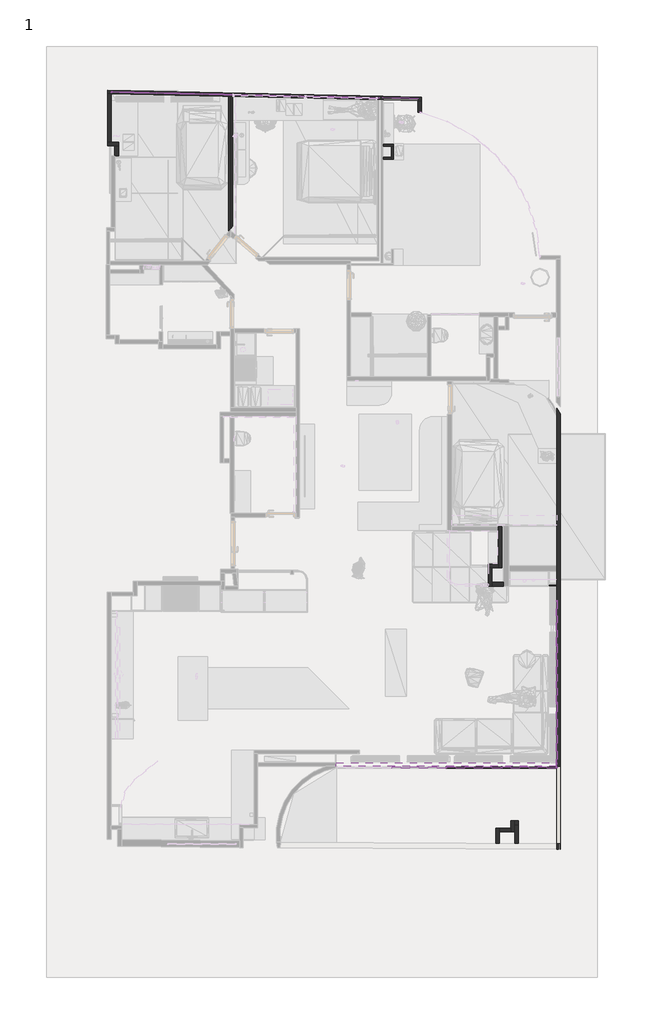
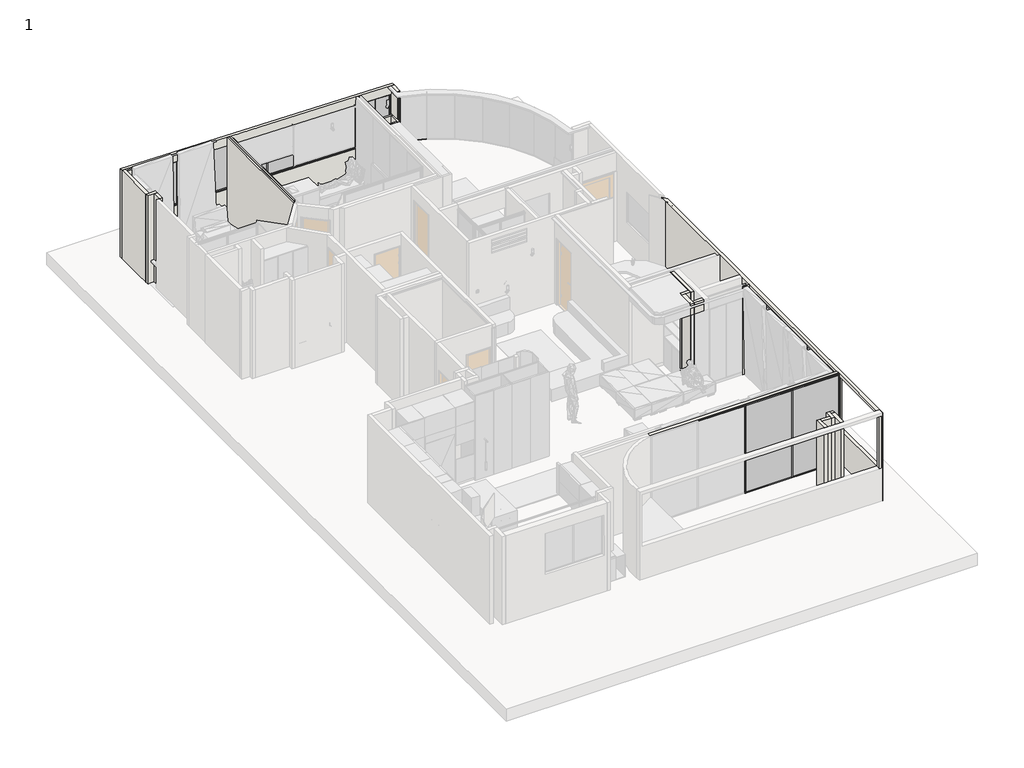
# One storey, part 6 of 11: 40 members, 22 walls, 11 plates.
"""IFC4 building model written with IfcOpenShell, lengths in millimetres."""

from ifc_helpers import new_model, si_unit, frame, origin, origin_with_axes, place, context, project, spatial, polyline, circle_curve, outline, extrude, faceted_brep, transform, mapped, element, save
from ifc_brep_helpers import plane_surface, cylinder_surface, advanced_brep
from components import rectangular_mullion_30mm_square_bb45b953, rectangular_mullion_30mm_square_22a021ac, rectangular_mullion_30mm_square_f3bc5244, rectangular_mullion_30mm_square_e31bbad3, rectangular_mullion_30mm_square_cb0955aa, rectangular_mullion_30mm_square_fa3afb79, rectangular_mullion_30mm_square_635e6767, rectangular_mullion_30mm_square_427ff21f, rectangular_mullion_30mm_square_7dce82d5, rectangular_mullion_30mm_square_c12cb2e3, rectangular_mullion_30mm_square_d7211219, rectangular_mullion_30mm_square_151e444d, rectangular_mullion_30mm_square_53f41a94, rectangular_mullion_30mm_square_fba6741d, rectangular_mullion_30mm_square_529eeb8e, rectangular_mullion_rectangular_mullion_fg_bottom_20mm_79b829b6, rectangular_mullion_rectangular_mullion_fg_bottom_20mm_f2c6a49c, rectangular_mullion_rectangular_mullion_fg_left_20mm_23cf265d, rectangular_mullion_rectangular_mullion_fg_left_20mm_e4ea84c6, rectangular_mullion_rectangular_mullion_fg_right_20mm_0f13af1a, rectangular_mullion_rectangular_mullion_fg_top_20mm_4843f478, rectangular_mullion_rectangular_mullion_fg_vertical_20_6439c7f2, plate_a6297edd, plate_065c79b7

model = new_model("IFC4")

# Units and contexts
model_context = context("Model", 3, world=origin())
ifc_project = project(units=[si_unit("LENGTHUNIT", "METRE", prefix="MILLI")], contexts=[model_context])

# Site, building, storey
site = spatial("IfcSite", under=ifc_project)
building = spatial("IfcBuilding", under=site)
storey = spatial("IfcBuildingStorey", under=building, Name="1", Elevation=0.0)

# Members
placement = place(None, origin())
rectangular_mullion_30mm_square_shape = rectangular_mullion_30mm_square_bb45b953(model_context)
element("IfcMember", 1, ObjectType="Rectangular Mullion : 30mm Square", at=placement, inside=storey, context=model_context, shape_type="MappedRepresentation", body=[
    mapped(rectangular_mullion_30mm_square_shape, transform((99604.3502509, 7842.3363239, 0.0), x_axis=(1.0, 0.0, 0.0), y_axis=(0.0, -1.0, 0.0), z_axis=(0.0, 0.0, -1.0))),
])
rectangular_mullion_30mm_square_2_shape = rectangular_mullion_30mm_square_22a021ac(model_context)
element("IfcMember", 2, ObjectType="Rectangular Mullion : 30mm Square", at=placement, inside=storey, context=model_context, shape_type="MappedRepresentation", body=[
    mapped(rectangular_mullion_30mm_square_2_shape, transform((94819.4045121, 25823.5186766, 1210.0), x_axis=(0.9997504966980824, -0.022337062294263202, 0.0), y_axis=(-0.022337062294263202, -0.9997504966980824, 0.0), z_axis=(0.0, 0.0, -1.0))),
])
element("IfcMember", 3, ObjectType="Rectangular Mullion : 30mm Square", at=placement, inside=storey, context=model_context, shape_type="MappedRepresentation", body=[
    mapped(rectangular_mullion_30mm_square_2_shape, transform((87623.931136, 25984.2845252, 2650.0), x_axis=(-0.9997504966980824, 0.022337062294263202, 0.0), y_axis=(-0.022337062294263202, -0.9997504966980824, 0.0), z_axis=(0.0, 0.0, 1.0))),
])
rectangular_mullion_30mm_square_3_shape = rectangular_mullion_30mm_square_f3bc5244(model_context)
element("IfcMember", 4, ObjectType="Rectangular Mullion : 30mm Square", at=placement, inside=storey, context=model_context, shape_type="MappedRepresentation", body=[
    mapped(rectangular_mullion_30mm_square_3_shape, transform((92052.7699373, 25885.3325882, 1210.0), x_axis=(0.9997504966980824, -0.022337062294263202, 0.0), y_axis=(-0.022337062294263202, -0.9997504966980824, 0.0), z_axis=(0.0, 0.0, -1.0))),
])
element("IfcMember", 5, ObjectType="Rectangular Mullion : 30mm Square", at=placement, inside=storey, context=model_context, shape_type="MappedRepresentation", body=[
    mapped(rectangular_mullion_30mm_square_3_shape, transform((93417.4014157, 25854.8431226, 1210.0), x_axis=(0.9997504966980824, -0.022337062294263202, 0.0), y_axis=(-0.022337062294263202, -0.9997504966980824, 0.0), z_axis=(0.0, 0.0, -1.0))),
])
element("IfcMember", 6, ObjectType="Rectangular Mullion : 30mm Square", at=placement, inside=storey, context=model_context, shape_type="MappedRepresentation", body=[
    mapped(rectangular_mullion_30mm_square_3_shape, transform((89263.5219506, 25947.6517431, 1210.0), x_axis=(0.9997504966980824, -0.022337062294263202, 0.0), y_axis=(-0.022337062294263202, -0.9997504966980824, 0.0), z_axis=(0.0, 0.0, -1.0))),
])
rectangular_mullion_30mm_square_4_shape = rectangular_mullion_30mm_square_e31bbad3(model_context)
element("IfcMember", 7, ObjectType="Rectangular Mullion : 30mm Square", at=placement, inside=storey, context=model_context, shape_type="MappedRepresentation", body=[
    mapped(rectangular_mullion_30mm_square_4_shape, transform((92067.7661947, 25884.9975323, 1210.0), x_axis=(0.0, 0.0, -1.0), y_axis=(-0.02233706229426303, -0.9997504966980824, 0.0), z_axis=(-0.9997504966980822, 0.022337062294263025, 0.0))),
])
element("IfcMember", 8, ObjectType="Rectangular Mullion : 30mm Square", at=placement, inside=storey, context=model_context, shape_type="MappedRepresentation", body=[
    mapped(rectangular_mullion_30mm_square_4_shape, transform((93402.4051583, 25855.1781786, 2650.0), x_axis=(0.0, 0.0, 1.0), y_axis=(-0.02233706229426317, -0.9997504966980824, 0.0), z_axis=(0.9997504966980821, -0.022337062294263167, 0.0))),
])
rectangular_mullion_30mm_square_5_shape = rectangular_mullion_30mm_square_cb0955aa(model_context)
element("IfcMember", 9, ObjectType="Rectangular Mullion : 30mm Square", at=placement, inside=storey, context=model_context, shape_type="MappedRepresentation", body=[
    mapped(rectangular_mullion_30mm_square_5_shape, transform((87653.9236509, 25983.6144133, 1210.0), x_axis=(0.0, 0.0, -1.0), y_axis=(-0.0223370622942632, -0.9997504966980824, 0.0), z_axis=(-0.9997504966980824, 0.0223370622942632, 0.0))),
])
rectangular_mullion_30mm_square_6_shape = rectangular_mullion_30mm_square_fa3afb79(model_context)
element("IfcMember", 10, ObjectType="Rectangular Mullion : 30mm Square", at=placement, inside=storey, context=model_context, shape_type="MappedRepresentation", body=[
    mapped(rectangular_mullion_30mm_square_6_shape, transform((92037.7736798, 25885.6676441, 2650.0), x_axis=(0.0, 0.0, 1.0), y_axis=(-0.02233706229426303, -0.9997504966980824, 0.0), z_axis=(0.9997504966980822, -0.022337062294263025, 0.0))),
])
element("IfcMember", 11, ObjectType="Rectangular Mullion : 30mm Square", at=placement, inside=storey, context=model_context, shape_type="MappedRepresentation", body=[
    mapped(rectangular_mullion_30mm_square_5_shape, transform((89248.5256932, 25947.986799, 2650.0), x_axis=(0.0, 0.0, 1.0), y_axis=(-0.022337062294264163, -0.9997504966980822, 0.0), z_axis=(0.9997504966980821, -0.02233706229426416, 0.0))),
])
element("IfcMember", 12, ObjectType="Rectangular Mullion : 30mm Square", at=placement, inside=storey, context=model_context, shape_type="MappedRepresentation", body=[
    mapped(rectangular_mullion_30mm_square_6_shape, transform((89278.5182081, 25947.3166871, 1210.0), x_axis=(0.0, 0.0, -1.0), y_axis=(-0.022337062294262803, -0.9997504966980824, 0.0), z_axis=(-0.9997504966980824, 0.022337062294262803, 0.0))),
])
rectangular_mullion_30mm_square_7_shape = rectangular_mullion_30mm_square_635e6767(model_context)
element("IfcMember", 13, ObjectType="Rectangular Mullion : 30mm Square", at=placement, inside=storey, context=model_context, shape_type="MappedRepresentation", body=[
    mapped(rectangular_mullion_30mm_square_7_shape, transform((94789.4119972, 25824.1887884, 2650.0), x_axis=(0.0, 0.0, 1.0), y_axis=(-0.022337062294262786, -0.9997504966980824, 0.0), z_axis=(0.9997504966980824, -0.022337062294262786, 0.0))),
])
element("IfcMember", 14, ObjectType="Rectangular Mullion : 30mm Square", at=placement, inside=storey, context=model_context, shape_type="MappedRepresentation", body=[
    mapped(rectangular_mullion_30mm_square_7_shape, transform((93432.3976732, 25854.5080667, 1210.0), x_axis=(0.0, 0.0, -1.0), y_axis=(-0.022337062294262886, -0.9997504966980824, 0.0), z_axis=(-0.9997504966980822, 0.022337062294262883, 0.0))),
])
rectangular_mullion_30mm_square_8_shape = rectangular_mullion_30mm_square_427ff21f(model_context)
element("IfcMember", 15, ObjectType="Rectangular Mullion : 30mm Square", at=placement, inside=storey, context=model_context, shape_type="MappedRepresentation", body=[
    mapped(rectangular_mullion_30mm_square_8_shape, transform((99604.3502509, 7824.8363239, 1334.4706456), x_axis=(0.0, -1.0, 0.0), y_axis=(-1.0, 0.0, 0.0), z_axis=(0.0, 0.0, -1.0))),
])
element("IfcMember", 16, ObjectType="Rectangular Mullion : 30mm Square", at=placement, inside=storey, context=model_context, shape_type="MappedRepresentation", body=[
    mapped(rectangular_mullion_30mm_square_8_shape, transform((99604.3502509, 12334.5259381, 2827.5479286), x_axis=(0.0, 1.0, 0.0), y_axis=(-1.0, 0.0, 0.0), z_axis=(0.0, 0.0, 1.0))),
])
rectangular_mullion_30mm_square_9_shape = rectangular_mullion_30mm_square_7dce82d5(model_context)
element("IfcMember", 17, ObjectType="Rectangular Mullion : 30mm Square", at=placement, inside=storey, context=model_context, shape_type="MappedRepresentation", body=[
    mapped(rectangular_mullion_30mm_square_9_shape, transform((99604.3502509, 12304.5259381, 1334.4706456), x_axis=(0.0, 0.0, -1.0), y_axis=(-1.0, 0.0, 0.0), z_axis=(0.0, 1.0, 0.0))),
])
element("IfcMember", 18, ObjectType="Rectangular Mullion : 30mm Square", at=placement, inside=storey, context=model_context, shape_type="MappedRepresentation", body=[
    mapped(rectangular_mullion_30mm_square_9_shape, transform((99604.3502509, 11149.5259381, 2827.5479286), x_axis=(0.0, 0.0, 1.0), y_axis=(-1.0, 0.0, 0.0), z_axis=(0.0, -1.0, 0.0))),
])
rectangular_mullion_30mm_square_10_shape = rectangular_mullion_30mm_square_c12cb2e3(model_context)
element("IfcMember", 19, ObjectType="Rectangular Mullion : 30mm Square", at=placement, inside=storey, context=model_context, shape_type="MappedRepresentation", body=[
    mapped(rectangular_mullion_30mm_square_10_shape, transform((99604.3502509, 11134.5259381, 1334.4706456), x_axis=(0.0, -1.0, 0.0), y_axis=(-1.0, 0.0, 0.0), z_axis=(0.0, 0.0, -1.0))),
])
element("IfcMember", 20, ObjectType="Rectangular Mullion : 30mm Square", at=placement, inside=storey, context=model_context, shape_type="MappedRepresentation", body=[
    mapped(rectangular_mullion_30mm_square_10_shape, transform((99604.3502509, 9574.5259381, 1334.4706456), x_axis=(0.0, -1.0, 0.0), y_axis=(-1.0, 0.0, 0.0), z_axis=(0.0, 0.0, -1.0))),
])
rectangular_mullion_30mm_square_11_shape = rectangular_mullion_30mm_square_d7211219(model_context)
element("IfcMember", 21, ObjectType="Rectangular Mullion : 30mm Square", at=placement, inside=storey, context=model_context, shape_type="MappedRepresentation", body=[
    mapped(rectangular_mullion_30mm_square_11_shape, transform((99604.3502509, 11119.5259381, 1334.4706456), x_axis=(0.0, 0.0, -1.0), y_axis=(-1.0, 0.0, 0.0), z_axis=(0.0, 1.0, 0.0))),
])
element("IfcMember", 22, ObjectType="Rectangular Mullion : 30mm Square", at=placement, inside=storey, context=model_context, shape_type="MappedRepresentation", body=[
    mapped(rectangular_mullion_30mm_square_11_shape, transform((99604.3502509, 9589.5259381, 2827.5479286), x_axis=(0.0, 0.0, 1.0), y_axis=(-1.0, 0.0, 0.0), z_axis=(0.0, -1.0, 0.0))),
])
rectangular_mullion_30mm_square_12_shape = rectangular_mullion_30mm_square_151e444d(model_context)
element("IfcMember", 23, ObjectType="Rectangular Mullion : 30mm Square", at=placement, inside=storey, context=model_context, shape_type="MappedRepresentation", body=[
    mapped(rectangular_mullion_30mm_square_12_shape, transform((96640.6682783, 7842.3363239, 0.0), x_axis=(1.0, 0.0, 0.0), y_axis=(0.0, -1.0, 0.0), z_axis=(0.0, 0.0, -1.0))),
])
element("IfcMember", 24, ObjectType="Rectangular Mullion : 30mm Square", at=placement, inside=storey, context=model_context, shape_type="MappedRepresentation", body=[
    mapped(rectangular_mullion_30mm_square_12_shape, transform((98122.5092646, 7842.3363239, 0.0), x_axis=(1.0, 0.0, 0.0), y_axis=(0.0, -1.0, 0.0), z_axis=(0.0, 0.0, -1.0))),
])
rectangular_mullion_30mm_square_13_shape = rectangular_mullion_30mm_square_53f41a94(model_context)
element("IfcMember", 25, ObjectType="Rectangular Mullion : 30mm Square", at=placement, inside=storey, context=model_context, shape_type="MappedRepresentation", body=[
    mapped(rectangular_mullion_30mm_square_13_shape, transform((99574.3502509, 7842.3363239, 2930.0), x_axis=(0.0, 0.0, 1.0), y_axis=(0.0, -1.0, 0.0), z_axis=(1.0, 0.0, 0.0))),
])
rectangular_mullion_30mm_square_14_shape = rectangular_mullion_30mm_square_fba6741d(model_context)
element("IfcMember", 26, ObjectType="Rectangular Mullion : 30mm Square", at=placement, inside=storey, context=model_context, shape_type="MappedRepresentation", body=[
    mapped(rectangular_mullion_30mm_square_14_shape, transform((96655.6682783, 7842.3363239, 0.0), x_axis=(0.0, 0.0, -1.0), y_axis=(0.0, -1.0, 0.0), z_axis=(-1.0, 0.0, 0.0))),
])
element("IfcMember", 27, ObjectType="Rectangular Mullion : 30mm Square", at=placement, inside=storey, context=model_context, shape_type="MappedRepresentation", body=[
    mapped(rectangular_mullion_30mm_square_14_shape, transform((96625.6682783, 7842.3363239, 2930.0), x_axis=(0.0, 0.0, 1.0), y_axis=(0.0, -1.0, 0.0), z_axis=(1.0, 0.0, 0.0))),
])
element("IfcMember", 28, ObjectType="Rectangular Mullion : 30mm Square", at=placement, inside=storey, context=model_context, shape_type="MappedRepresentation", body=[
    mapped(rectangular_mullion_30mm_square_14_shape, transform((98107.5092646, 7842.3363239, 2930.0), x_axis=(0.0, 0.0, 1.0), y_axis=(0.0, -1.0, 0.0), z_axis=(1.0, 0.0, 0.0))),
])
element("IfcMember", 29, ObjectType="Rectangular Mullion : 30mm Square", at=placement, inside=storey, context=model_context, shape_type="MappedRepresentation", body=[
    mapped(rectangular_mullion_30mm_square_13_shape, transform((98137.5092646, 7842.3363239, 0.0), x_axis=(0.0, 0.0, -1.0), y_axis=(0.0, -1.0, 0.0), z_axis=(-1.0, 0.0, 0.0))),
])
rectangular_mullion_30mm_square_15_shape = rectangular_mullion_30mm_square_529eeb8e(model_context)
element("IfcMember", 30, ObjectType="Rectangular Mullion : 30mm Square", at=placement, inside=storey, context=model_context, shape_type="MappedRepresentation", body=[
    mapped(rectangular_mullion_30mm_square_15_shape, transform((99604.3502509, 7854.8363239, 2827.5479286), x_axis=(0.0, 0.0, 1.0), y_axis=(-1.0, 0.0, 0.0), z_axis=(0.0, -1.0, 0.0))),
])
element("IfcMember", 31, ObjectType="Rectangular Mullion : 30mm Square", at=placement, inside=storey, context=model_context, shape_type="MappedRepresentation", body=[
    mapped(rectangular_mullion_30mm_square_15_shape, transform((99604.3502509, 9559.5259381, 1334.4706456), x_axis=(0.0, 0.0, -1.0), y_axis=(-1.0, 0.0, 0.0), z_axis=(0.0, 1.0, 0.0))),
])
rectangular_mullion_rectangular_mullion_fg_bottom_20mm_shape = rectangular_mullion_rectangular_mullion_fg_bottom_20mm_79b829b6(model_context)
element("IfcMember", 32, ObjectType="Rectangular Mullion : Rectangular Mullion-FG Bottom 20mm", at=placement, inside=storey, context=model_context, shape_type="MappedRepresentation", body=[
    mapped(rectangular_mullion_rectangular_mullion_fg_bottom_20mm_shape, transform((95923.0231854, 25434.6898524, 1217.4752087), x_axis=(0.0, 0.0, -1.0), y_axis=(-0.3209924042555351, -0.9470817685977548, 0.0), z_axis=(-0.9470817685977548, 0.3209924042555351, 0.0))),
])
rectangular_mullion_rectangular_mullion_fg_bottom_20mm_2_shape = rectangular_mullion_rectangular_mullion_fg_bottom_20mm_f2c6a49c(model_context)
element("IfcMember", 33, ObjectType="Rectangular Mullion : Rectangular Mullion-FG Bottom 20mm", at=placement, inside=storey, context=model_context, shape_type="MappedRepresentation", body=[
    mapped(rectangular_mullion_rectangular_mullion_fg_bottom_20mm_2_shape, transform((94934.7838788, 25820.9407973, 1167.9966083), x_axis=(0.0, 0.0, -1.0), y_axis=(-0.022337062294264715, -0.9997504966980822, 0.0), z_axis=(-0.9997504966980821, 0.02233706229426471, 0.0))),
])
element("IfcMember", 34, ObjectType="Rectangular Mullion : Rectangular Mullion-FG Bottom 20mm", at=placement, inside=storey, context=model_context, shape_type="MappedRepresentation", body=[
    mapped(rectangular_mullion_rectangular_mullion_fg_bottom_20mm_2_shape, transform((95409.4619587, 25810.3352373, 1167.9966083), x_axis=(0.0, 0.0, -1.0), y_axis=(-0.022337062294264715, -0.9997504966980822, 0.0), z_axis=(-0.9997504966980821, 0.02233706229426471, 0.0))),
])
rectangular_mullion_rectangular_mullion_fg_left_20mm_shape = rectangular_mullion_rectangular_mullion_fg_left_20mm_23cf265d(model_context)
element("IfcMember", 35, ObjectType="Rectangular Mullion : Rectangular Mullion-FG Left 20mm", at=placement, inside=storey, context=model_context, shape_type="MappedRepresentation", body=[
    mapped(rectangular_mullion_rectangular_mullion_fg_left_20mm_shape, transform((95923.0231854, 25434.6898524, 2778.8206794), x_axis=(-0.9470817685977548, 0.32099240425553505, 0.0), y_axis=(-0.32099240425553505, -0.9470817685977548, 0.0), z_axis=(0.0, 0.0, 1.0))),
])
rectangular_mullion_rectangular_mullion_fg_left_20mm_2_shape = rectangular_mullion_rectangular_mullion_fg_left_20mm_e4ea84c6(model_context)
element("IfcMember", 36, ObjectType="Rectangular Mullion : Rectangular Mullion-FG Left 20mm", at=placement, inside=storey, context=model_context, shape_type="MappedRepresentation", body=[
    mapped(rectangular_mullion_rectangular_mullion_fg_left_20mm_2_shape, transform((94934.7838788, 25820.9407973, 2605.0), x_axis=(-0.9997504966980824, 0.022337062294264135, 0.0), y_axis=(-0.022337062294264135, -0.9997504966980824, 0.0), z_axis=(0.0, 0.0, 1.0))),
])
rectangular_mullion_rectangular_mullion_fg_right_20mm_shape = rectangular_mullion_rectangular_mullion_fg_right_20mm_0f13af1a(model_context)
element("IfcMember", 37, ObjectType="Rectangular Mullion : Rectangular Mullion-FG Right 20mm", at=placement, inside=storey, context=model_context, shape_type="MappedRepresentation", body=[
    mapped(rectangular_mullion_rectangular_mullion_fg_right_20mm_shape, transform((95884.1400386, 25799.7296774, 1187.9966083), x_axis=(0.9997504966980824, -0.022337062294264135, 0.0), y_axis=(-0.022337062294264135, -0.9997504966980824, 0.0), z_axis=(0.0, 0.0, -1.0))),
])
rectangular_mullion_rectangular_mullion_fg_top_20mm_shape = rectangular_mullion_rectangular_mullion_fg_top_20mm_4843f478(model_context)
element("IfcMember", 38, ObjectType="Rectangular Mullion : Rectangular Mullion-FG Top 20mm", at=placement, inside=storey, context=model_context, shape_type="MappedRepresentation", body=[
    mapped(rectangular_mullion_rectangular_mullion_fg_top_20mm_shape, transform((95884.1400386, 25799.7296774, 2650.0), x_axis=(0.0, 0.0, 1.0), y_axis=(-0.022337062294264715, -0.9997504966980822, 0.0), z_axis=(0.9997504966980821, -0.02233706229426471, 0.0))),
])
element("IfcMember", 39, ObjectType="Rectangular Mullion : Rectangular Mullion-FG Top 20mm", at=placement, inside=storey, context=model_context, shape_type="MappedRepresentation", body=[
    mapped(rectangular_mullion_rectangular_mullion_fg_top_20mm_shape, transform((95409.4619587, 25810.3352373, 2650.0), x_axis=(0.0, 0.0, 1.0), y_axis=(-0.022337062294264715, -0.9997504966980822, 0.0), z_axis=(0.9997504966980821, -0.02233706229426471, 0.0))),
])
rectangular_mullion_rectangular_mullion_fg_vertical_20_shape = rectangular_mullion_rectangular_mullion_fg_vertical_20_6439c7f2(model_context)
element("IfcMember", 40, ObjectType="Rectangular Mullion : Rectangular Mullion-FG Vertical 20", at=placement, inside=storey, context=model_context, shape_type="MappedRepresentation", body=[
    mapped(rectangular_mullion_rectangular_mullion_fg_vertical_20_shape, transform((95409.4619587, 25810.3352373, 1187.9966083), x_axis=(0.9997504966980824, -0.022337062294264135, 0.0), y_axis=(-0.022337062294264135, -0.9997504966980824, 0.0), z_axis=(0.0, 0.0, -1.0))),
])

# Plates
plate_shape = plate_a6297edd(model_context)
element("IfcPlate", 41, ObjectType="Panel Flex Glassline_10mm : Panel Flex Glassline_10mm", at=placement, inside=storey, context=model_context, shape_type="MappedRepresentation", body=[
    mapped(plate_shape, transform((95182.1204237, 25815.4146467, 1177.9966083), x_axis=(0.9997504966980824, -0.022337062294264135, 0.0), y_axis=(0.022337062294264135, 0.9997504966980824, 0.0), z_axis=(0.0, 0.0, 1.0))),
])
plate_2_shape = plate_065c79b7(model_context)
element("IfcPlate", 42, ObjectType="Panel Flex Glassline_10mm : Panel Flex Glassline_10mm", at=placement, inside=storey, context=model_context, shape_type="MappedRepresentation", body=[
    mapped(plate_2_shape, transform((95634.3041174, 25805.3116706, 1177.9966083), x_axis=(0.9997504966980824, -0.022337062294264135, 0.0), y_axis=(0.022337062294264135, 0.9997504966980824, 0.0), z_axis=(0.0, 0.0, 1.0))),
])
element("IfcPlate", 43, ObjectType="glass", at=placement, inside=storey, context=model_context, shape_type="SweptSolid", body=[
    extrude(outline(polyline([(89248.4698505, 25945.4874227), (87653.8678083, 25981.1150371), (87653.9794936, 25986.1137896), (89248.5815358, 25950.4861752), (89248.4698505, 25945.4874227)])), frame((0.0, 0.0, 1240.0), z_axis=(0.0, 0.0, 1.0), x_axis=(1.0, 0.0, 0.0)), (0.0, 0.0, 1.0), 1380.0),
])
element("IfcPlate", 44, ObjectType="glass", at=placement, inside=storey, context=model_context, shape_type="SweptSolid", body=[
    extrude(outline(polyline([(93402.3493156, 25852.6788023), (92067.7103521, 25882.498156), (92067.8220374, 25887.4969085), (93402.4610009, 25857.6775548), (93402.3493156, 25852.6788023)])), frame((0.0, 0.0, 1240.0), z_axis=(0.0, 0.0, 1.0), x_axis=(1.0, 0.0, 0.0)), (0.0, 0.0, 1.0), 1380.0),
])
element("IfcPlate", 45, ObjectType="glass", at=placement, inside=storey, context=model_context, shape_type="SweptSolid", body=[
    extrude(outline(polyline([(94789.3561545, 25821.6894122), (93432.3418305, 25852.0086904), (93432.4535158, 25857.0074429), (94789.4678398, 25826.6881647), (94789.3561545, 25821.6894122)])), frame((0.0, 0.0, 1240.0), z_axis=(0.0, 0.0, 1.0), x_axis=(1.0, 0.0, 0.0)), (0.0, 0.0, 1.0), 1380.0),
])
element("IfcPlate", 46, ObjectType="glass", at=placement, inside=storey, context=model_context, shape_type="Brep", body=[
    faceted_brep([(89278.4623654, 25944.8173109, 1240.0), (90845.5964247, 25909.8034037, 1240.0), (90895.5964247, 25908.6862718, 1240.0), (92037.7178372, 25883.1682679, 1240.0), (92037.7178372, 25883.1682679, 2620.0), (89278.4623654, 25944.8173109, 2620.0), (89278.5740507, 25949.8160634, 1240.0), (89278.5740507, 25949.8160634, 2620.0), (92037.8295225, 25888.1670204, 2620.0), (92037.8295225, 25888.1670204, 1240.0)], [[[0, 1, 2, 3, 4, 5]], [[6, 7, 8, 9]], [[3, 2, 1, 0, 6, 9]], [[4, 3, 9, 8]], [[5, 4, 8, 7]], [[0, 5, 7, 6]]]),
])
element("IfcPlate", 47, ObjectType="glass", at=placement, inside=storey, context=model_context, shape_type="SweptSolid", body=[
    extrude(outline(polyline([(99601.8502509, 11149.5259381), (99601.8502509, 12304.5259381), (99606.8502509, 12304.5259381), (99606.8502509, 11149.5259381), (99601.8502509, 11149.5259381)])), frame((0.0, 0.0, 1364.4706456), z_axis=(0.0, 0.0, 1.0), x_axis=(1.0, 0.0, 0.0)), (0.0, 0.0, 1.0), 1433.077283),
])
element("IfcPlate", 48, ObjectType="glass", at=placement, inside=storey, context=model_context, shape_type="SweptSolid", body=[
    extrude(outline(polyline([(99601.8502509, 9589.5259381), (99601.8502509, 11119.5259381), (99606.8502509, 11119.5259381), (99606.8502509, 9589.5259381), (99601.8502509, 9589.5259381)])), frame((0.0, 0.0, 1364.4706456), z_axis=(0.0, 0.0, 1.0), x_axis=(1.0, 0.0, 0.0)), (0.0, 0.0, 1.0), 1433.077283),
])
element("IfcPlate", 49, ObjectType="glass", at=placement, inside=storey, context=model_context, shape_type="SweptSolid", body=[
    extrude(outline(polyline([(99601.8502509, 7854.8363239), (99601.8502509, 9559.5259381), (99606.8502509, 9559.5259381), (99606.8502509, 7854.8363239), (99601.8502509, 7854.8363239)])), frame((0.0, 0.0, 1364.4706456), z_axis=(0.0, 0.0, 1.0), x_axis=(1.0, 0.0, 0.0)), (0.0, 0.0, 1.0), 1433.077283),
])
element("IfcPlate", 50, ObjectType="glass", at=placement, inside=storey, context=model_context, shape_type="SweptSolid", body=[
    extrude(outline(polyline([(98107.5092646, 7839.8363239), (96655.6682783, 7839.8363239), (96655.6682783, 7844.8363239), (98107.5092646, 7844.8363239), (98107.5092646, 7839.8363239)])), frame((0.0, 0.0, 30.0), z_axis=(0.0, 0.0, 1.0), x_axis=(1.0, 0.0, 0.0)), (0.0, 0.0, 1.0), 2870.0),
])
element("IfcPlate", 51, ObjectType="glass", at=placement, inside=storey, context=model_context, shape_type="SweptSolid", body=[
    extrude(outline(polyline([(99574.3502509, 7839.8363239), (98137.5092646, 7839.8363239), (98137.5092646, 7844.8363239), (99574.3502509, 7844.8363239), (99574.3502509, 7839.8363239)])), frame((0.0, 0.0, 30.0), z_axis=(0.0, 0.0, 1.0), x_axis=(1.0, 0.0, 0.0)), (0.0, 0.0, 1.0), 2870.0),
])

# Walls
element("IfcWall", 52, ObjectType=".016", at=placement, inside=storey, context=model_context, shape_type="SweptSolid", body=[
    extrude(outline(polyline([(0.0, 99398.5838644), (0.0, 99604.3502509), (2930.0, 99604.3502509), (2930.0, 99398.5838644), (0.0, 99398.5838644)]), holes=[polyline([(192.5750359, 99463.8002509), (273.7250359, 99463.8002509), (273.7250359, 99544.9002509), (192.5750359, 99544.9002509), (192.5750359, 99463.8002509)])]), frame((0.0, 12722.5259381, 0.0), z_axis=(0.0, 1.0, 0.0), x_axis=(0.0, 0.0, 1.0)), (0.0, 0.0, 1.0), 16.0),
])
element("IfcWall", 53, ObjectType="10", at=placement, inside=storey, context=model_context, shape_type="Brep", body=[
    faceted_brep([(95968.0231854, 25847.8679849, 0.0), (87529.1834516, 26036.4139166, 0.0), (87529.1834516, 26036.4139166, 2930.0), (95968.0231854, 25847.8679849, 2930.0), (87625.0479892, 26034.2720501, 2650.0), (87625.0479892, 26034.2720501, 1210.0), (94820.5213652, 25873.5062014, 1210.0), (94935.900732, 25870.9283221, 1210.0), (94935.900732, 25870.9283221, 1167.9966083), (95885.2568917, 25849.7172022, 1167.9966083), (95885.2568917, 25849.7172022, 2650.0), (94935.900732, 25870.9283221, 2650.0), (94820.5213652, 25873.5062014, 2650.0), (87529.1834516, 25936.38896, 0.0), (87629.1834516, 25934.1546964, 0.0), (90790.4867294, 25863.5228452, 0.0), (90840.4867294, 25862.4057134, 0.0), (90845.5964247, 25862.2915493, 0.0), (90895.5964247, 25861.1744175, 0.0), (94782.0328941, 25774.3411788, 0.0), (94832.0328941, 25773.2240469, 0.0), (94884.7838788, 25772.0454508, 0.0), (94934.7838788, 25770.928319, 0.0), (95878.0231854, 25749.8538657, 0.0), (95968.0231854, 25747.8430284, 0.0), (95968.0231854, 25747.8430284, 2930.0), (95878.0231854, 25749.8538657, 2930.0), (94934.7838788, 25770.928319, 2930.0), (94884.7838788, 25772.0454508, 2930.0), (94832.0328941, 25773.2240469, 2930.0), (94782.0328941, 25774.3411788, 2930.0), (90895.5964247, 25861.1744175, 2930.0), (90845.5964247, 25862.2915493, 2930.0), (90840.4867294, 25862.4057134, 2930.0), (90790.4867294, 25863.5228452, 2930.0), (87629.1834516, 25934.1546964, 2930.0), (87529.1834516, 25936.38896, 2930.0), (87622.8142829, 25934.2970004, 1210.0), (87622.8142829, 25934.2970004, 2650.0), (90845.5964247, 25862.2915493, 2650.0), (90895.5964247, 25861.1744175, 2650.0), (94818.2876589, 25773.5311517, 2650.0), (94933.6670257, 25770.9532724, 2650.0), (95883.0231854, 25749.7421525, 2650.0), (95883.0231854, 25749.7421525, 1167.9966083), (94933.6670257, 25770.9532724, 1167.9966083), (94933.6670257, 25770.9532724, 1210.0), (94818.2876589, 25773.5311517, 1210.0), (92073.7055565, 25834.852353, 333.1436661), (92073.7055565, 25834.852353, 414.2936661), (92154.7853218, 25833.0408172, 414.2936661), (92154.7853218, 25833.0408172, 333.1436661), (89350.2961514, 25895.7005003, 327.7614555), (89350.2961514, 25895.7005003, 408.9114555), (89431.3759167, 25893.8889646, 408.9114555), (89431.3759167, 25893.8889646, 327.7614555), (92074.2639831, 25859.8461154, 414.2936661), (92074.2639831, 25859.8461154, 333.1436661), (92155.3437484, 25858.0345796, 333.1436661), (92155.3437484, 25858.0345796, 414.2936661), (89350.8545779, 25920.6942627, 408.9114555), (89350.8545779, 25920.6942627, 327.7614555), (89431.9343432, 25918.882727, 327.7614555), (89431.9343432, 25918.882727, 408.9114555)], [[[0, 1, 2, 3], [4, 5, 6, 7, 8, 9, 10, 11, 12]], [[13, 14, 15, 16, 17, 18, 19, 20, 21, 22, 23, 24, 25, 26, 27, 28, 29, 30, 31, 32, 33, 34, 35, 36], [37, 38, 39, 40, 41, 42, 43, 44, 45, 46, 47], [48, 49, 50, 51], [52, 53, 54, 55]], [[2, 1, 13, 36]], [[1, 0, 24, 23, 22, 21, 20, 19, 18, 17, 16, 15, 14, 13]], [[3, 2, 36, 35, 34, 33, 32, 31, 30, 29, 28, 27, 26, 25]], [[38, 4, 12, 11, 10, 43, 42, 41, 40, 39]], [[5, 4, 38, 37]], [[5, 37, 47, 46, 7, 6]], [[43, 10, 9, 44]], [[0, 3, 25, 24]], [[45, 8, 7, 46]], [[8, 45, 44, 9]], [[56, 57, 58, 59]], [[57, 56, 49, 48]], [[58, 57, 48, 51]], [[59, 58, 51, 50]], [[56, 59, 50, 49]], [[60, 61, 62, 63]], [[61, 60, 53, 52]], [[62, 61, 52, 55]], [[63, 62, 55, 54]], [[60, 63, 54, 53]]]),
])
element("IfcWall", 54, ObjectType="10", at=placement, inside=storey, context=model_context, shape_type="Brep", body=[
    faceted_brep([(87629.1834516, 24639.2985284, 0.0), (87629.1834516, 25934.1546964, 0.0), (87629.1834516, 25934.1546964, 2930.0), (87629.1834516, 24639.2985284, 2930.0), (87629.1834516, 24713.6046964, 209.8105726), (87629.1834516, 24713.6046964, 290.9605726), (87629.1834516, 24794.7046964, 290.9605726), (87629.1834516, 24794.7046964, 209.8105726), (87529.1834516, 25936.38896, 0.0), (87529.1834516, 24639.2985284, 0.0), (87529.1834516, 24639.2985284, 2930.0), (87529.1834516, 25936.38896, 2930.0), (87604.1834516, 24713.6046964, 290.9605726), (87604.1834516, 24713.6046964, 209.8105726), (87604.1834516, 24794.7046964, 209.8105726), (87604.1834516, 24794.7046964, 290.9605726)], [[[0, 1, 2, 3], [4, 5, 6, 7]], [[8, 9, 10, 11]], [[1, 0, 9, 8]], [[3, 2, 11, 10]], [[0, 3, 10, 9]], [[1, 8, 11, 2]], [[12, 13, 14, 15]], [[13, 12, 5, 4]], [[14, 13, 4, 7]], [[15, 14, 7, 6]], [[12, 15, 6, 5]]]),
])
element("IfcWall", 55, ObjectType="10", at=placement, inside=storey, context=model_context, shape_type="Brep", body=[
    faceted_brep([(87829.253874, 24639.2985284, 0.0), (87629.1834516, 24639.2985284, 0.0), (87529.1834516, 24639.2985284, 0.0), (87529.1834516, 24639.2985284, 2930.0), (87629.1834516, 24639.2985284, 2930.0), (87829.253874, 24639.2985284, 2930.0), (87829.253874, 24539.2985284, 0.0), (87829.253874, 24539.2985284, 2930.0), (87729.253874, 24539.2985284, 2930.0), (87529.1834516, 24539.2985284, 2930.0), (87529.1834516, 24539.2985284, 0.0), (87729.253874, 24539.2985284, 0.0)], [[[0, 1, 2, 3, 4, 5]], [[6, 7, 8, 9, 10, 11]], [[2, 1, 0, 6, 11, 10]], [[5, 4, 3, 9, 8, 7]], [[3, 2, 10, 9]], [[0, 5, 7, 6]]]),
])
element("IfcWall", 56, ObjectType="10", at=placement, inside=storey, context=model_context, shape_type="Brep", body=[
    faceted_brep([(87829.253874, 24268.9082853, 0.0), (87829.253874, 24539.2985284, 0.0), (87829.253874, 24539.2985284, 2930.0), (87829.253874, 24268.9082853, 2930.0), (87729.253874, 24268.9082853, 0.0), (87729.253874, 24268.9082853, 2930.0), (87729.253874, 24539.2985284, 2930.0), (87729.253874, 24539.2985284, 0.0), (87735.0362797, 24268.9082853, 0.0), (87735.0362797, 24268.9082853, 2930.0)], [[[0, 1, 2, 3]], [[4, 5, 6, 7]], [[1, 0, 8, 4, 7]], [[3, 2, 6, 5, 9]], [[0, 3, 9, 5, 4, 8]], [[2, 1, 7, 6]]]),
])
element("IfcWall", 57, ObjectType="10", at=placement, inside=storey, context=model_context, shape_type="Brep", body=[
    faceted_brep([(98133.4901558, 13206.5358144, 0.0), (98133.4901558, 14206.0304058, 0.0), (98133.4901558, 14206.0304058, 97.3469012), (98133.4901558, 14306.0304058, 97.3469012), (98133.4901558, 14306.0304058, 2930.0), (98133.4901558, 13206.5358144, 2930.0), (98033.4901558, 13206.5358144, 0.0), (98033.4901558, 13206.5358144, 2930.0), (98033.4901558, 13306.5358144, 2930.0), (98033.4901558, 14206.0304058, 2930.0), (98033.4901558, 14306.0304058, 2930.0), (98033.4901558, 14306.0304058, 97.3469012), (98033.4901558, 14206.0304058, 97.3469012), (98033.4901558, 14206.0304058, 0.0), (98033.4901558, 13306.5358144, 0.0)], [[[0, 1, 2, 3, 4, 5]], [[6, 7, 8, 9, 10, 11, 12, 13, 14]], [[1, 0, 6, 14, 13]], [[5, 4, 10, 9, 8, 7]], [[0, 5, 7, 6]], [[11, 3, 2, 12]], [[2, 1, 13, 12]], [[4, 3, 11, 10]]]),
])
element("IfcWall", 58, ObjectType="10", at=placement, inside=storey, context=model_context, shape_type="Brep", body=[
    faceted_brep([(97761.5820716, 13206.5358144, 0.0), (97861.5820716, 13206.5358144, 0.0), (98033.4901558, 13206.5358144, 0.0), (98033.4901558, 13206.5358144, 2930.0), (97861.5820716, 13206.5358144, 2930.0), (97761.5820716, 13206.5358144, 2930.0), (97761.5820716, 13306.5358144, 0.0), (97761.5820716, 13306.5358144, 2930.0), (98033.4901558, 13306.5358144, 2930.0), (98033.4901558, 13306.5358144, 0.0)], [[[0, 1, 2, 3, 4, 5]], [[6, 7, 8, 9]], [[2, 1, 0, 6, 9]], [[5, 4, 3, 8, 7]], [[3, 2, 9, 8]], [[0, 5, 7, 6]]]),
])
element("IfcWall", 59, ObjectType="10", at=placement, inside=storey, context=model_context, shape_type="Brep", body=[
    faceted_brep([(97861.5820716, 12714.5259381, 0.0), (97861.5820716, 12814.5259381, 0.0), (97861.5820716, 13206.5358144, 0.0), (97861.5820716, 13206.5358144, 2930.0), (97861.5820716, 12814.5259381, 2930.0), (97861.5820716, 12714.5259381, 2930.0), (97761.5820716, 12714.5259381, 0.0), (97761.5820716, 12714.5259381, 2930.0), (97761.5820716, 13206.5358144, 2930.0), (97761.5820716, 13206.5358144, 0.0)], [[[0, 1, 2, 3, 4, 5]], [[6, 7, 8, 9]], [[2, 1, 0, 6, 9]], [[5, 4, 3, 8, 7]], [[3, 2, 9, 8]], [[0, 5, 7, 6]]]),
])
element("IfcWall", 60, ObjectType="10", at=placement, inside=storey, context=model_context, shape_type="SweptSolid", body=[
    extrude(outline(polyline([(98169.1043164, 12714.5259381), (97861.5820716, 12714.5259381), (97861.5820716, 12814.5259381), (98169.1043164, 12814.5259381), (98169.1043164, 12714.5259381)])), origin_with_axes(), (0.0, 0.0, 1.0), 2930.0),
])
element("IfcWall", 61, ObjectType="10", at=placement, inside=storey, context=model_context, shape_type="AdvancedBrep", body=[
    advanced_brep(
    [(99604.3502509, 17492.5243875, 0.0), (99604.3502509, 12738.5259381, 0.0), (99604.3502509, 12722.5259381, 0.0), (99604.3502509, 5651.9570747, 0.0), (99604.3502509, 5651.9570747, 2930.0), (99604.3502509, 7876.1964771, 2930.0), (99604.3502509, 7976.1964771, 2930.0), (99604.3502509, 12722.5259381, 2930.0), (99604.3502509, 12738.5259381, 2930.0), (99604.3502509, 17492.5243875, 2930.0), (99604.3502509, 12339.3171184, 2616.0), (99604.3502509, 7880.6171184, 2611.0), (99604.3502509, 7876.7171184, 1339.0), (99604.3502509, 12334.1171184, 1331.0), (99604.3502509, 5801.6499447, 2820.0), (99604.3502509, 5801.6499447, 1100.0), (99604.3502509, 7871.6929382, 1100.0), (99604.3502509, 7871.6929382, 2820.0), (99604.3502509, 8042.8863239, 528.3898723), (99604.3502509, 8042.8863239, 609.5398723), (99604.3502509, 7961.7863239, 609.5398723), (99604.3502509, 7961.7863239, 528.3898723), (99604.3502509, 17169.5359028, 281.2377294), (99604.3502509, 17169.5359028, 362.3877294), (99604.3502509, 17088.4359028, 362.3877294), (99604.3502509, 17088.4359028, 281.2377294), (99704.3502509, 5651.4186257, 0.0), (99704.3502509, 17350.3450807, 0.0), (99704.3502509, 17350.3450807, 2930.0), (99704.3502509, 5651.4186257, 2930.0), (99704.3502509, 7880.6171184, 2611.0), (99704.3502509, 12339.3171184, 2616.0), (99704.3502509, 12334.1171184, 1331.0), (99704.3502509, 7876.7171184, 1339.0), (99704.3502509, 5801.6499447, 1100.0), (99704.3502509, 5801.6499447, 2820.0), (99704.3502509, 7871.6929382, 2820.0), (99704.3502509, 7871.6929382, 1100.0), (99629.3502509, 8042.8863239, 609.5398723), (99629.3502509, 8042.8863239, 528.3898723), (99629.3502509, 7961.7863239, 528.3898723), (99629.3502509, 7961.7863239, 609.5398723), (99629.3502509, 17169.5359028, 362.3877294), (99629.3502509, 17169.5359028, 281.2377294), (99629.3502509, 17088.4359028, 281.2377294), (99629.3502509, 17088.4359028, 362.3877294)],
    [
        (0, 1),
        (1, 2),
        (2, 3),
        (3, 4),
        (4, 5),
        (5, 6),
        (6, 7),
        (7, 8),
        (8, 9),
        (9, 0),
        (10, 11),
        (11, 12),
        (12, 13),
        (13, 10),
        (14, 15),
        (15, 16),
        (16, 17),
        (17, 14),
        (18, 19),
        (19, 20),
        (20, 21),
        (21, 18),
        (22, 23),
        (23, 24),
        (24, 25),
        (25, 22),
        (26, 27),
        (27, 28),
        (28, 29),
        (29, 26),
        (30, 31),
        (31, 32),
        (32, 33),
        (33, 30),
        (34, 35),
        (35, 36),
        (36, 37),
        (37, 34),
        (9, 28, circle_curve(frame((98230.1632712, 16419.7510067, 2930.0), z_axis=(0.0, 0.0, -1.0), x_axis=(1.0, 0.0, 0.0)), 1743.3394913)),
        (27, 0, circle_curve(frame((98230.1632712, 16419.7510067, 0.0), z_axis=(0.0, 0.0, 1.0), x_axis=(1.0, 0.0, 0.0)), 1743.3394913)),
        (26, 3),
        (4, 29),
        (10, 31),
        (30, 11),
        (33, 12),
        (32, 13),
        (14, 35),
        (34, 15),
        (37, 16),
        (36, 17),
        (38, 39),
        (39, 40),
        (40, 41),
        (41, 38),
        (38, 19),
        (18, 39),
        (21, 40),
        (20, 41),
        (42, 43),
        (43, 44),
        (44, 45),
        (45, 42),
        (42, 23),
        (22, 43),
        (25, 44),
        (24, 45),
    ],
    [
        plane_surface(frame((99604.3502509, 17509.5941044, 0.0), z_axis=(-1.0, 0.0, 0.0), x_axis=(0.0, -1.0, 0.0))),
        plane_surface(frame((99704.3502509, 17509.5941044, 0.0), z_axis=(1.0, 0.0, 0.0), x_axis=(0.0, 1.0, 0.0))),
        cylinder_surface(frame((98230.1632712, 16419.7510067, 0.0), z_axis=(0.0, 0.0, -1.0), x_axis=(1.0, 0.0, 0.0)), 1743.3394913),
        plane_surface(frame((99604.3502509, 17509.5941044, 0.0), z_axis=(0.0, 0.0, -1.0), x_axis=(1.0, 0.0, 0.0))),
        plane_surface(frame((99604.3502509, 5726.6889374, 2930.0), z_axis=(0.0, 0.0, 1.0), x_axis=(1.0, 0.0, 0.0))),
        plane_surface(frame((99604.3502509, 12339.3171184, 2616.0), z_axis=(0.0, 0.001121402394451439, -0.9999993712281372), x_axis=(1.0, 0.0, 0.0))),
        plane_surface(frame((99604.3502509, 7880.6171184, 2611.0), z_axis=(0.0, 0.9999952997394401, -0.0030660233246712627), x_axis=(1.0, 0.0, 0.0))),
        plane_surface(frame((99604.3502509, 7876.7171184, 1339.0), z_axis=(0.0, 0.0017947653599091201, 0.9999983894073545), x_axis=(1.0, 0.0, 0.0))),
        plane_surface(frame((99604.3502509, 12334.1171184, 1331.0), z_axis=(0.0, -0.9999918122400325, 0.004046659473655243), x_axis=(1.0, 0.0, 0.0))),
        plane_surface(frame((99604.3502509, 5801.6499447, 2820.0), z_axis=(0.0, 1.0, 0.0), x_axis=(1.0, 0.0, 0.0))),
        plane_surface(frame((99604.3502509, 5801.6499447, 1100.0), z_axis=(0.0, 0.0, 1.0), x_axis=(1.0, 0.0, 0.0))),
        plane_surface(frame((99604.3502509, 7871.6929382, 1100.0), z_axis=(0.0, -1.0, 0.0), x_axis=(1.0, 0.0, 0.0))),
        plane_surface(frame((99604.3502509, 7871.6929382, 2820.0), z_axis=(0.0, 0.0, -1.0), x_axis=(1.0, 0.0, 0.0))),
        plane_surface(frame((92132.4687389, 5692.1893495, 0.0), z_axis=(-0.005384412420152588, -0.9999855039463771, 0.0), x_axis=(0.9999855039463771, -0.005384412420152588, 0.0))),
        plane_surface(frame((99629.3502509, 8042.8863239, 609.5398723), z_axis=(-1.0, 0.0, 0.0), x_axis=(0.0, 0.0, 1.0))),
        plane_surface(frame((99604.3502509, 8042.8863239, 609.5398723), z_axis=(0.0, -1.0, 0.0), x_axis=(1.0, 0.0, 0.0))),
        plane_surface(frame((99604.3502509, 8042.8863239, 528.3898723), z_axis=(0.0, 0.0, 1.0), x_axis=(1.0, 0.0, 0.0))),
        plane_surface(frame((99604.3502509, 7961.7863239, 528.3898723), z_axis=(0.0, 1.0, 0.0), x_axis=(1.0, 0.0, 0.0))),
        plane_surface(frame((99604.3502509, 7961.7863239, 609.5398723), z_axis=(0.0, 0.0, -1.0), x_axis=(1.0, 0.0, 0.0))),
        plane_surface(frame((99629.3502509, 17169.5359028, 362.3877294), z_axis=(-1.0, 0.0, 0.0), x_axis=(0.0, 0.0, 1.0))),
        plane_surface(frame((99604.3502509, 17169.5359028, 362.3877294), z_axis=(0.0, -1.0, 0.0), x_axis=(1.0, 0.0, 0.0))),
        plane_surface(frame((99604.3502509, 17169.5359028, 281.2377294), z_axis=(0.0, 0.0, 1.0), x_axis=(1.0, 0.0, 0.0))),
        plane_surface(frame((99604.3502509, 17088.4359028, 281.2377294), z_axis=(0.0, 1.0, 0.0), x_axis=(1.0, 0.0, 0.0))),
        plane_surface(frame((99604.3502509, 17088.4359028, 362.3877294), z_axis=(0.0, 0.0, -1.0), x_axis=(1.0, 0.0, 0.0))),
    ],
    [
        (0, [[1, 2, 3, 4, 5, 6, 7, 8, 9, 10], [11, 12, 13, 14], [15, 16, 17, 18], [19, 20, 21, 22], [23, 24, 25, 26]]),
        (1, [[27, 28, 29, 30], [31, 32, 33, 34], [35, 36, 37, 38]]),
        (2, [[-10, 39, -28, 40]]),
        (3, [[-3, -2, -1, -40, -27, 41]]),
        (4, [[-9, -8, -7, -6, -5, 42, -29, -39]]),
        (5, [[-11, 43, -31, 44]]),
        (6, [[-12, -44, -34, 45]]),
        (7, [[-13, -45, -33, 46]]),
        (8, [[-14, -46, -32, -43]]),
        (9, [[-15, 47, -35, 48]]),
        (10, [[-16, -48, -38, 49]]),
        (11, [[-17, -49, -37, 50]]),
        (12, [[-18, -50, -36, -47]]),
        (13, [[-41, -30, -42, -4]]),
        (14, [[51, 52, 53, 54]]),
        (15, [[-51, 55, -19, 56]]),
        (16, [[-52, -56, -22, 57]]),
        (17, [[-53, -57, -21, 58]]),
        (18, [[-54, -58, -20, -55]]),
        (19, [[59, 60, 61, 62]]),
        (20, [[-59, 63, -23, 64]]),
        (21, [[-60, -64, -26, 65]]),
        (22, [[-61, -65, -25, 66]]),
        (23, [[-62, -66, -24, -63]]),
    ],
),
])
element("IfcWall", 62, ObjectType="10", at=placement, inside=storey, context=model_context, shape_type="Brep", body=[
    faceted_brep([(97965.2041986, 6218.9508915, 0.0), (97965.2041986, 5810.7852154, 0.0), (97965.2041986, 5810.7852154, 2930.0), (97965.2041986, 6218.9508915, 2930.0), (98065.2041986, 6218.9508915, 0.0), (98065.2041986, 6218.9508915, 2930.0), (98065.2041986, 6118.9508915, 2930.0), (98065.2041986, 5810.2467664, 2930.0), (98065.2041986, 5810.2467664, 0.0), (98065.2041986, 6118.9508915, 0.0)], [[[0, 1, 2, 3]], [[4, 5, 6, 7, 8, 9]], [[1, 0, 4, 9, 8]], [[3, 2, 7, 6, 5]], [[0, 3, 5, 4]], [[1, 8, 7, 2]]]),
])
element("IfcWall", 63, ObjectType="10", at=placement, inside=storey, context=model_context, shape_type="SweptSolid", body=[
    extrude(outline(polyline([(98065.2041986, 6218.9508915), (98365.1993701, 6218.9508915), (98365.1993701, 6118.9508915), (98065.2041986, 6118.9508915), (98065.2041986, 6218.9508915)])), origin_with_axes(), (0.0, 0.0, 1.0), 2930.0),
])
element("IfcWall", 64, ObjectType="10", at=placement, inside=storey, context=model_context, shape_type="Brep", body=[
    faceted_brep([(98365.1993701, 6411.8589616, 0.0), (98365.1993701, 6218.9508915, 0.0), (98365.1993701, 6118.9508915, 0.0), (98365.1993701, 6118.9508915, 2930.0), (98365.1993701, 6218.9508915, 2930.0), (98365.1993701, 6411.8589616, 2930.0), (98465.1993701, 6411.8589616, 0.0), (98465.1993701, 6411.8589616, 2930.0), (98465.1993701, 6311.8589616, 2930.0), (98465.1993701, 6118.9508915, 2930.0), (98465.1993701, 6118.9508915, 0.0), (98465.1993701, 6311.8589616, 0.0)], [[[0, 1, 2, 3, 4, 5]], [[6, 7, 8, 9, 10, 11]], [[2, 1, 0, 6, 11, 10]], [[5, 4, 3, 9, 8, 7]], [[3, 2, 10, 9]], [[0, 5, 7, 6]]]),
])
element("IfcWall", 65, ObjectType="10", at=placement, inside=storey, context=model_context, shape_type="Brep", body=[
    faceted_brep([(98577.6477055, 6411.8589616, 0.0), (98465.1993701, 6411.8589616, 0.0), (98465.1993701, 6411.8589616, 2930.0), (98577.6477055, 6411.8589616, 2930.0), (98577.6477055, 6311.8589616, 0.0), (98577.6477055, 6311.8589616, 2930.0), (98477.6477055, 6311.8589616, 2930.0), (98465.1993701, 6311.8589616, 2930.0), (98465.1993701, 6311.8589616, 0.0), (98477.6477055, 6311.8589616, 0.0)], [[[0, 1, 2, 3]], [[4, 5, 6, 7, 8, 9]], [[1, 0, 4, 9, 8]], [[3, 2, 7, 6, 5]], [[2, 1, 8, 7]], [[0, 3, 5, 4]]]),
])
element("IfcWall", 66, ObjectType="10", at=placement, inside=storey, context=model_context, shape_type="SweptSolid", body=[
    extrude(outline(polyline([(98577.6477055, 6311.8589616), (98577.6477055, 5807.4875192), (98477.6477055, 5808.0259683), (98477.6477055, 6311.8589616), (98577.6477055, 6311.8589616)])), origin_with_axes(), (0.0, 0.0, 1.0), 2930.0),
])
element("IfcWall", 67, ObjectType="10", at=placement, inside=storey, context=model_context, shape_type="Brep", body=[
    faceted_brep([(99604.3502509, 7976.1964771, 2611.1290448), (93677.1267853, 7976.1964771, 2611.1290448), (93669.1267853, 7976.1964771, 2611.1290448), (93669.1267853, 7976.1964771, 2930.0), (99604.3502509, 7976.1964771, 2930.0), (99604.3502509, 7876.1964771, 2611.1290448), (99604.3502509, 7876.1964771, 2930.0), (93669.1267853, 7876.1964771, 2930.0), (93669.1267853, 7876.1964771, 2611.1290448), (93677.1267853, 7876.1964771, 2611.1290448)], [[[0, 1, 2, 3, 4]], [[5, 6, 7, 8, 9]], [[2, 1, 0, 5, 9, 8]], [[3, 2, 8, 7]], [[4, 3, 7, 6]], [[0, 4, 6, 5]]]),
])
element("IfcWall", 68, ObjectType="5", at=placement, inside=storey, context=model_context, shape_type="SweptSolid", body=[
    extrude(outline(polyline([(90840.4867294, 25862.4057134), (90840.4867294, 22315.7833962), (90790.4867294, 22253.1989564), (90790.4867294, 25863.5228452), (90840.4867294, 25862.4057134)])), origin_with_axes(), (0.0, 0.0, 1.0), 2930.0),
])
element("IfcWall", 69, ObjectType="5", at=placement, inside=storey, context=model_context, shape_type="Brep", body=[
    faceted_brep([(90845.5964247, 25862.2915493, 0.0), (90845.5964247, 22322.1791445, 0.0), (90845.5964247, 22322.1791445, 2930.0), (90845.5964247, 25862.2915493, 2930.0), (90845.5964247, 25862.2915493, 2650.0), (90845.5964247, 25909.8034037, 2650.0), (90845.5964247, 25909.8034037, 1240.0), (90845.5964247, 25862.2915493, 1240.0), (90895.5964247, 22384.7635844, 0.0), (90895.5964247, 25861.1744175, 0.0), (90895.5964247, 25861.1744175, 1240.0), (90895.5964247, 25908.6862718, 1240.0), (90895.5964247, 25908.6862718, 2650.0), (90895.5964247, 25861.1744175, 2650.0), (90895.5964247, 25861.1744175, 2930.0), (90895.5964247, 22384.7635844, 2930.0), (90895.5964247, 23652.3891232, 258.3680707), (90895.5964247, 23652.3891232, 339.5180707), (90895.5964247, 23733.4891232, 339.5180707), (90895.5964247, 23733.4891232, 258.3680707), (90870.5964247, 23652.3891232, 339.5180707), (90870.5964247, 23652.3891232, 258.3680707), (90870.5964247, 23733.4891232, 258.3680707), (90870.5964247, 23733.4891232, 339.5180707)], [[[0, 1, 2, 3, 4, 5, 6, 7]], [[8, 9, 10, 11, 12, 13, 14, 15], [16, 17, 18, 19]], [[1, 0, 9, 8]], [[3, 2, 15, 14]], [[11, 10, 7, 6]], [[9, 0, 7, 10]], [[2, 1, 8, 15]], [[13, 12, 5, 4]], [[11, 6, 5, 12]], [[3, 14, 13, 4]], [[20, 21, 22, 23]], [[21, 20, 17, 16]], [[22, 21, 16, 19]], [[23, 22, 19, 18]], [[20, 23, 18, 17]]]),
])
element("IfcWall", 70, ObjectType="5", at=placement, inside=storey, context=model_context, shape_type="Brep", body=[
    faceted_brep([(95214.8466293, 24579.1842947, 0.0), (94934.7838788, 24579.1842947, 0.0), (94934.7838788, 24579.1842947, 2930.0), (95214.8466293, 24579.1842947, 2930.0), (95214.8466293, 24529.1842947, 0.0), (95214.8466293, 24529.1842947, 2930.0), (95164.8466293, 24529.1842947, 2930.0), (94934.7838788, 24529.1842947, 2930.0), (94934.7838788, 24529.1842947, 0.0), (95164.8466293, 24529.1842947, 0.0)], [[[0, 1, 2, 3]], [[4, 5, 6, 7, 8, 9]], [[1, 0, 4, 9, 8]], [[3, 2, 7, 6, 5]], [[2, 1, 8, 7]], [[0, 3, 5, 4]]]),
])
element("IfcWall", 71, ObjectType="5", at=placement, inside=storey, context=model_context, shape_type="Brep", body=[
    faceted_brep([(95214.8466293, 24177.9391232, 0.0), (95214.8466293, 24529.1842947, 0.0), (95214.8466293, 24529.1842947, 2930.0), (95214.8466293, 24177.9391232, 2930.0), (95164.8466293, 24177.9391232, 0.0), (95164.8466293, 24177.9391232, 2930.0), (95164.8466293, 24227.9391232, 2930.0), (95164.8466293, 24529.1842947, 2930.0), (95164.8466293, 24529.1842947, 0.0), (95164.8466293, 24227.9391232, 0.0)], [[[0, 1, 2, 3]], [[4, 5, 6, 7, 8, 9]], [[1, 0, 4, 9, 8]], [[3, 2, 7, 6, 5]], [[2, 1, 8, 7]], [[0, 3, 5, 4]]]),
])
element("IfcWall", 72, ObjectType="5", at=placement, inside=storey, context=model_context, shape_type="SweptSolid", body=[
    extrude(outline(polyline([(94934.7838788, 24227.9391232), (95164.8466293, 24227.9391232), (95164.8466293, 24177.9391232), (94934.7838788, 24177.9391232), (94934.7838788, 24227.9391232)])), origin_with_axes(), (0.0, 0.0, 1.0), 2930.0),
])
element("IfcWall", 73, ObjectType="8 cm", at=placement, inside=storey, context=model_context, shape_type="SweptSolid", body=[
    extrude(outline(polyline([(95878.0231854, 25434.6898524), (95878.0231854, 25749.8538657), (95968.0231854, 25747.8430284), (95968.0231854, 25434.6898524), (95878.0231854, 25434.6898524)])), origin_with_axes(), (0.0, 0.0, 1.0), 2930.0),
])

save(model, "model.ifc")
